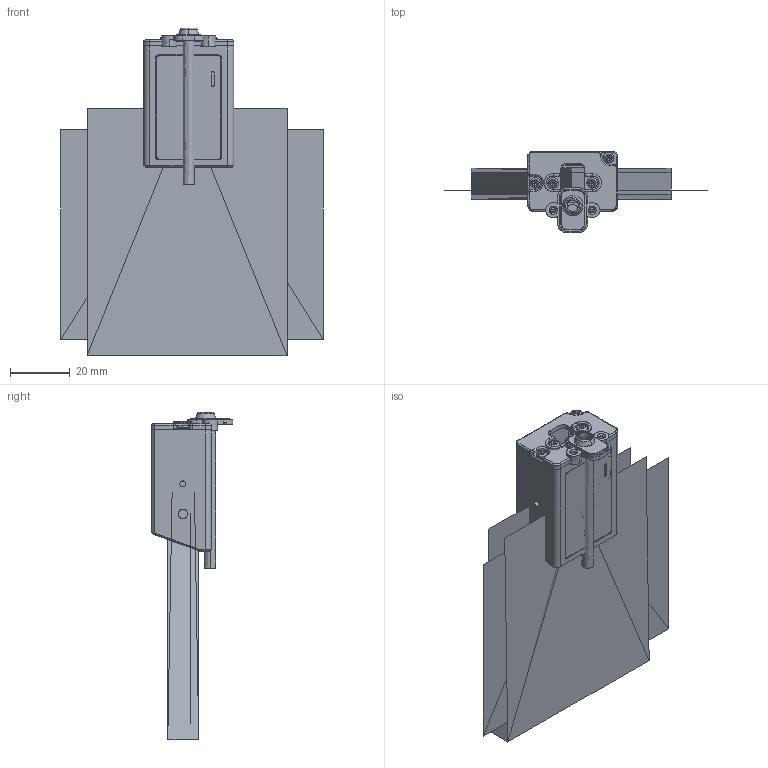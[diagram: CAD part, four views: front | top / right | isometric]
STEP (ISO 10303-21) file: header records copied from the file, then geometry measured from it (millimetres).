
FILE_DESCRIPTION (( 'STEP AP214' ), '1' );
FILE_NAME ('NLV-1001.STEP', '2022-12-14T07:12:48', ( '' ), ( '' ), 'SwSTEP 2.0', 'SolidWorks 2018', '' );
FILE_SCHEMA (( 'AUTOMOTIVE_DESIGN' ));
Length unit declared in the file: millimetre
Products named in the file (18): f20a_asm.igs; stopper1.igs; IFASSY.igs; b2-4.igs; laser_beam_over.igs; LASER_ASSY.igs; plamack.igs; laser_beam.igs; flw1000cable_stopper.igs; NLV-1001; flw1000back_case.igs; R1_ASSY.igs; swbn.igs; plat_b.igs; case11.igs; read_erea.igs; cable.igs; ASM0001.igs
Assembly tree (20 placements, depth 6):
  NLV-1001
    f20a_asm.igs
      case11.igs
      swbn.igs
      plamack.igs
      plat_b.igs
      b2-4.igs  x4
      IFASSY.igs
        R1_ASSY.igs
          LASER_ASSY.igs
            laser_beam.igs
            laser_beam_over.igs
            read_erea.igs
      ASM0001.igs
        flw1000back_case.igs
        stopper1.igs
        flw1000cable_stopper.igs
        cable.igs
Bounding box: 87.48 x 27.13 x 109.22 mm (x, y, z)
Volume: 8795.3 mm3; surface area: 48982.2 mm2
Topology: 12 solids, 19 shells, 697 faces, 1750 edges, 1098 vertices
Faces by surface type: bspline 697
Entity records: 25379 total; most frequent: CARTESIAN_POINT 16146, ORIENTED_EDGE 2952, EDGE_CURVE 1494, B_SPLINE_CURVE_WITH_KNOTS 1010, VERTEX_POINT 957, EDGE_LOOP 619, ADVANCED_FACE 577, FACE_OUTER_BOUND 577
